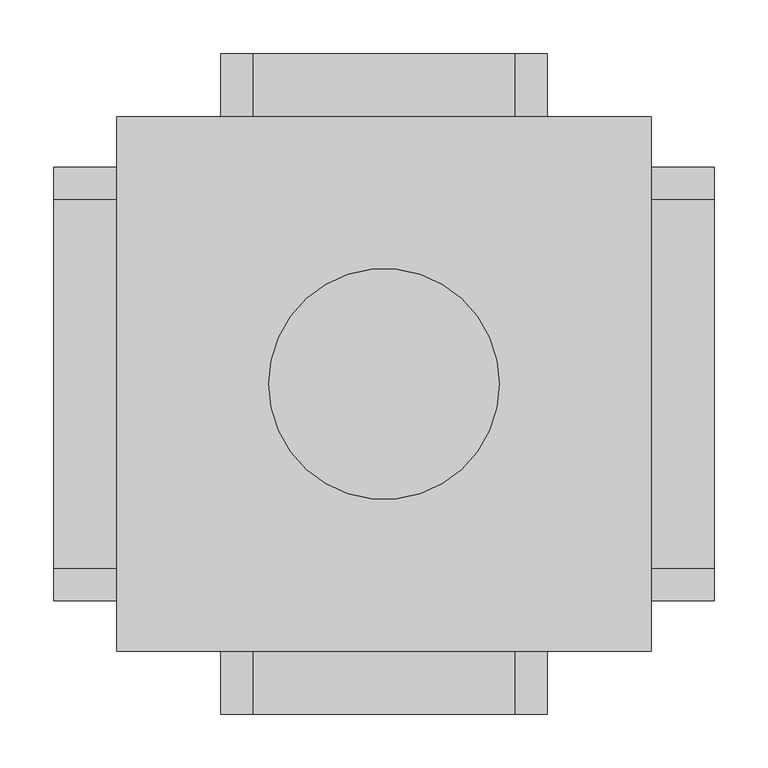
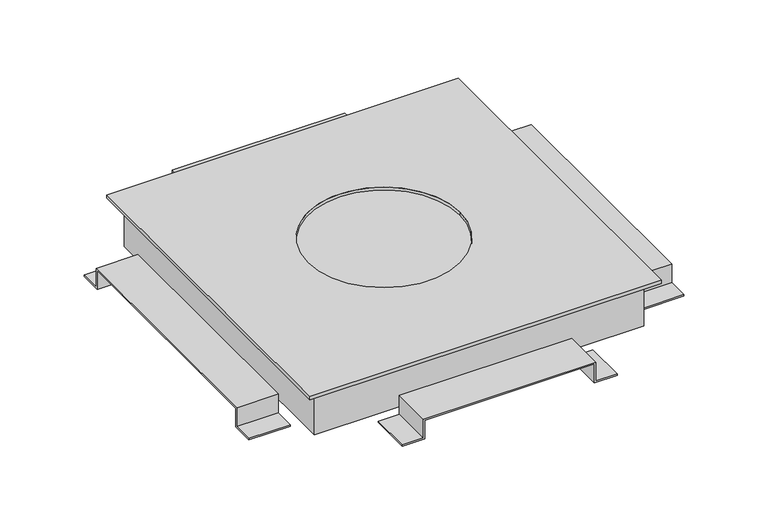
"""IFC4 building model written with IfcOpenShell, lengths in millimetres: cable carrier fitting geometry, Electrical-Installations_Hager_Universal-Junction-Box-With-Retaining-Tabs-Size-3 : Universal junction box with retaining tabs size 3."""

from ifc_helpers import new_model, si_unit, frame, origin, place, context, project, spatial, polyline, circle_curve, outline, extrude, faceted_brep, source, transform, mapped, element, save
from ifc_brep_helpers import plane_surface, revolved_surface, advanced_brep


def cable_carrier_fitting_ff291c77(model_context):
    return source(origin(), model_context, "Body", "SolidModel", [
        extrude(outline(polyline([(-14.0, -152.0), (-14.0, -120.0), (14.0, -120.0), (14.0, 120.0), (-14.0, 120.0), (-14.0, 152.0), (-12.0, 152.0), (-12.0, 122.0), (16.0, 122.0), (16.0, -122.0), (-12.0, -122.0), (-12.0, -152.0), (-14.0, -152.0)])), frame((0.0, 249.0, 0.0), z_axis=(0.0, 1.0, 0.0), x_axis=(0.0, 0.0, 1.0)), (0.0, 0.0, 1.0), 59.0),
        extrude(outline(polyline([(-202.0, -14.0), (-202.0, -12.0), (-172.0, -12.0), (-172.0, 16.0), (172.0, 16.0), (172.0, -12.0), (202.0, -12.0), (202.0, -14.0), (170.0, -14.0), (170.0, 14.0), (-170.0, 14.0), (-170.0, -14.0), (-202.0, -14.0)])), frame((-308.0, 0.0, 0.0), z_axis=(1.0, 0.0, 0.0), x_axis=(0.0, 1.0, 0.0)), (0.0, 0.0, 1.0), 59.0),
        extrude(outline(polyline([(-14.0, -152.0), (-14.0, -120.0), (14.0, -120.0), (14.0, 120.0), (-14.0, 120.0), (-14.0, 152.0), (-12.0, 152.0), (-12.0, 122.0), (16.0, 122.0), (16.0, -122.0), (-12.0, -122.0), (-12.0, -152.0), (-14.0, -152.0)])), frame((0.0, -308.0, 0.0), z_axis=(0.0, 1.0, 0.0), x_axis=(0.0, 0.0, 1.0)), (0.0, 0.0, 1.0), 59.0),
        extrude(outline(polyline([(-202.0, -14.0), (-202.0, -12.0), (-172.0, -12.0), (-172.0, 16.0), (172.0, 16.0), (172.0, -12.0), (202.0, -12.0), (202.0, -14.0), (170.0, -14.0), (170.0, 14.0), (-170.0, 14.0), (-170.0, -14.0), (-202.0, -14.0)])), frame((249.0, 0.0, 0.0), z_axis=(1.0, 0.0, 0.0), x_axis=(0.0, 1.0, 0.0)), (0.0, 0.0, 1.0), 59.0),
        advanced_brep(
        [(-249.0, -249.0, 59.0), (249.0, -249.0, 59.0), (249.0, 249.0, 59.0), (-249.0, 249.0, 59.0), (-107.5, 0.0, 59.0), (107.5, 0.0, 59.0), (-249.0, -249.0, 54.0), (-249.0, 249.0, 54.0), (249.0, 249.0, 54.0), (249.0, -249.0, 54.0), (227.0, 227.0, 54.0), (-227.0, 227.0, 54.0), (-227.0, -227.0, 54.0), (227.0, -227.0, 54.0), (-107.5, 0.0, 54.7820613), (107.5, 0.0, 54.7820613), (227.0, 227.0, 54.7820613), (227.0, -227.0, 54.7820613), (-227.0, -227.0, 54.7820613), (-227.0, 227.0, 54.7820613)],
        [
            (0, 1),
            (1, 2),
            (2, 3),
            (3, 0),
            (4, 5, circle_curve(frame((0.0, 0.0, 59.0), z_axis=(0.0, 0.0, -1.0), x_axis=(1.0, 0.0, 0.0)), 107.5)),
            (5, 4, circle_curve(frame((0.0, 0.0, 59.0), z_axis=(0.0, 0.0, -1.0), x_axis=(1.0, 0.0, 0.0)), 107.5)),
            (6, 7),
            (7, 8),
            (8, 9),
            (9, 6),
            (10, 11),
            (11, 12),
            (12, 13),
            (13, 10),
            (0, 6),
            (9, 1),
            (8, 2),
            (7, 3),
            (4, 14),
            (14, 15, circle_curve(frame((0.0, 0.0, 54.7820613), z_axis=(0.0, 0.0, -1.0), x_axis=(1.0, 0.0, 0.0)), 107.5)),
            (15, 5),
            (15, 14, circle_curve(frame((0.0, 0.0, 54.7820613), z_axis=(0.0, 0.0, -1.0), x_axis=(1.0, 0.0, 0.0)), 107.5)),
            (16, 17),
            (17, 18),
            (18, 19),
            (19, 16),
            (19, 11),
            (10, 16),
            (18, 12),
            (17, 13),
        ],
        [
            plane_surface(frame((-249.0, -249.0, 59.0), z_axis=(0.0, 0.0, 1.0), x_axis=(1.0, 0.0, 0.0))),
            plane_surface(frame((-249.0, -249.0, 54.0), z_axis=(0.0, 0.0, -1.0), x_axis=(-1.0, 0.0, 0.0))),
            plane_surface(frame((-249.0, -249.0, 59.0), z_axis=(0.0, -1.0, 0.0), x_axis=(0.0, 0.0, -1.0))),
            plane_surface(frame((249.0, -249.0, 59.0), z_axis=(1.0, 0.0, 0.0), x_axis=(0.0, 0.0, -1.0))),
            plane_surface(frame((249.0, 249.0, 59.0), z_axis=(0.0, 1.0, 0.0), x_axis=(0.0, 0.0, -1.0))),
            plane_surface(frame((-249.0, 249.0, 59.0), z_axis=(-1.0, 0.0, 0.0), x_axis=(0.0, 0.0, -1.0))),
            revolved_surface(polyline([(107.5, 0.0, 54.7820613), (107.5, 0.0, 59.0)]), (0.0, 0.0, 0.0), (0.0, 0.0, -1.0)),
            plane_surface(frame((-227.0, 227.0, 54.7820613), z_axis=(0.0, 0.0, -1.0), x_axis=(-1.0, 0.0, 0.0))),
            plane_surface(frame((227.0, 227.0, 54.7820613), z_axis=(0.0, -1.0, 0.0), x_axis=(0.0, 0.0, -1.0))),
            plane_surface(frame((-227.0, 227.0, 54.7820613), z_axis=(1.0, 0.0, 0.0), x_axis=(0.0, 0.0, -1.0))),
            plane_surface(frame((-227.0, -227.0, 54.7820613), z_axis=(0.0, 1.0, 0.0), x_axis=(0.0, 0.0, -1.0))),
            plane_surface(frame((227.0, -227.0, 54.7820613), z_axis=(-1.0, 0.0, 0.0), x_axis=(0.0, 0.0, -1.0))),
        ],
        [
            (0, [[1, 2, 3, 4], [5, 6]]),
            (1, [[7, 8, 9, 10], [11, 12, 13, 14]]),
            (2, [[-1, 15, -10, 16]]),
            (3, [[-2, -16, -9, 17]]),
            (4, [[-3, -17, -8, 18]]),
            (5, [[-4, -18, -7, -15]]),
            (6, [[-5, 19, 20, 21]]),
            (6, [[-6, -21, 22, -19]]),
            (7, [[23, 24, 25, 26], [-20, -22]]),
            (8, [[-26, 27, -11, 28]]),
            (9, [[-25, 29, -12, -27]]),
            (10, [[-24, 30, -13, -29]]),
            (11, [[-23, -28, -14, -30]]),
        ],
    ),
        faceted_brep([(-233.0, 233.0, 54.0), (-233.0, -233.0, 54.0), (233.0, -233.0, 54.0), (233.0, 233.0, 54.0), (-227.0, 227.0, 54.0), (227.0, 227.0, 54.0), (227.0, -227.0, 54.0), (-227.0, -227.0, 54.0), (-233.0, 233.0, -14.0), (233.0, 233.0, -14.0), (233.0, -233.0, -14.0), (-233.0, -233.0, -14.0), (227.0, 227.0, -6.1362798), (-227.0, 227.0, -6.1362798), (-227.0, -227.0, -6.1362798), (227.0, -227.0, -6.1362798)], [[[0, 1, 2, 3], [4, 5, 6, 7]], [[8, 9, 10, 11]], [[1, 0, 8, 11]], [[2, 1, 11, 10]], [[3, 2, 10, 9]], [[0, 3, 9, 8]], [[12, 13, 14, 15]], [[13, 12, 5, 4]], [[14, 13, 4, 7]], [[15, 14, 7, 6]], [[12, 15, 6, 5]]]),
    ])


if __name__ == "__main__":
    model = new_model("IFC4")
    model_context = context("Model", 3, world=origin())
    ifc_project = project(units=[si_unit("LENGTHUNIT", "METRE", prefix="MILLI")], contexts=[model_context])
    site = spatial("IfcSite", under=ifc_project)
    building = spatial("IfcBuilding", under=site)
    placement = place(None, origin())
    cable_carrier_fitting_shape = cable_carrier_fitting_ff291c77(model_context)
    element("IfcCableCarrierFitting", 1, ObjectType="Electrical-Installations_Hager_Universal-Junction-Box-With-Retaining-Tabs-Size-3 : Universal junction box with retaining tabs size 3", at=placement, inside=building, context=model_context, shape_type="MappedRepresentation", body=[
        mapped(cable_carrier_fitting_shape, transform((0.0, 0.0, 0.0), x_axis=(1.0, 0.0, 0.0), y_axis=(0.0, 1.0, 0.0), z_axis=(0.0, 0.0, 1.0))),
    ])
    save(model, "model.ifc")
